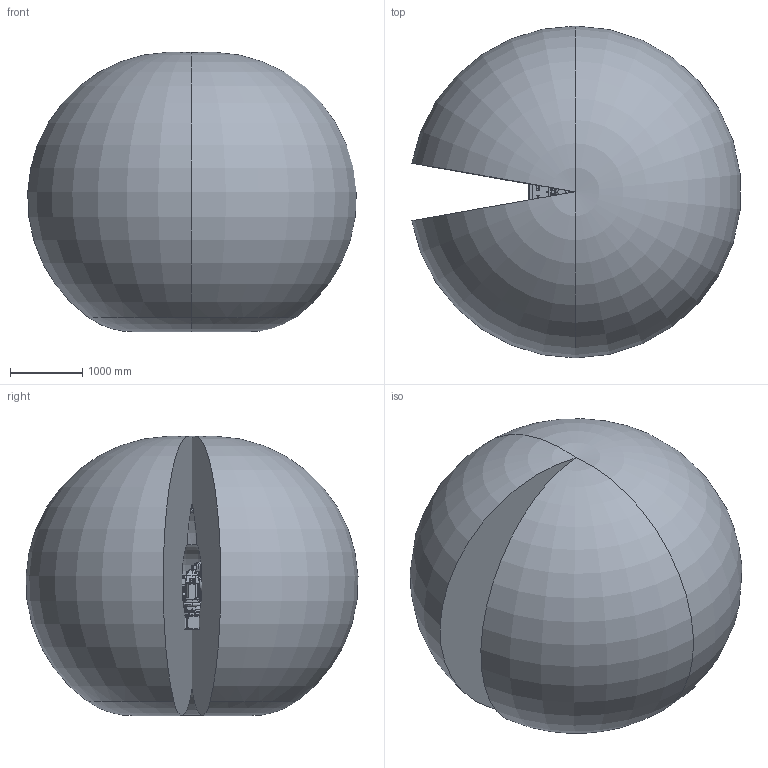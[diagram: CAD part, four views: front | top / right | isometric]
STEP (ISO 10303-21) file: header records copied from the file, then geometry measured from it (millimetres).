
FILE_DESCRIPTION (( 'STEP AP214' ), '1' );
FILE_NAME ('IRB5710_110kg-230_OC_02_ASM.step', '2025-07-09T15:50:13', ( '' ), ( '' ), 'SwSTEP 2.0', 'SolidWorks 2024', '' );
FILE_SCHEMA (( 'AUTOMOTIVE_DESIGN' ));
Length unit declared in the file: millimetre
Products named in the file (12): IRB5710_110kg-230_OmniCore_rev00_LINK01m_CABLE; IRB5710_110kg-230_OmniCore_rev00_LINK05_CAD; IRB5710_110kg-230_OC_02_ASM; IRB5710_110kg-230_OmniCore_rev00_LINK02_CAD; IRB5710_110kg-230_OmniCore_rev01_LINK03_CAD; IRB5710_110kg-230_OmniCore_rev00_LINK01_CAD; IRB5710_110kg-230_OmniCore_rev00_LINK04_CAD; IRB5710_110kg-230_OmniCore_rev00_LINK02m_CABLE; IRB5710_110kg-230_OmniCore_rev00_LINK06_CAD; IRB5710_110kg-230_OC_01_BASE_CAD; IRB5710_110kg-230_OmniCore_rev00_LINK03m_CABLE; IRB5710_110kg-230_OmniCore_rev00_Working-space
Assembly tree (11 placements, depth 2):
  IRB5710_110kg-230_OC_02_ASM
    IRB5710_110kg-230_OC_01_BASE_CAD
    IRB5710_110kg-230_OmniCore_rev00_LINK01_CAD
    IRB5710_110kg-230_OmniCore_rev00_LINK02_CAD
    IRB5710_110kg-230_OmniCore_rev01_LINK03_CAD
    IRB5710_110kg-230_OmniCore_rev00_LINK04_CAD
    IRB5710_110kg-230_OmniCore_rev00_LINK05_CAD
    IRB5710_110kg-230_OmniCore_rev00_LINK06_CAD
    IRB5710_110kg-230_OmniCore_rev00_LINK01m_CABLE
    IRB5710_110kg-230_OmniCore_rev00_LINK02m_CABLE
    IRB5710_110kg-230_OmniCore_rev00_LINK03m_CABLE
    IRB5710_110kg-230_OmniCore_rev00_Working-space
Bounding box: 4548.84 x 4596.35 x 3866.47 mm (x, y, z)
Volume: 42264094973.2 mm3; surface area: 88178330.5 mm2
Topology: 16 solids, 55 shells, 6278 faces, 15836 edges, 10210 vertices
Faces by surface type: plane 3071, cylinder 1797, cone 783, bspline 444, torus 167, sphere 16
Entity records: 283170 total; most frequent: CARTESIAN_POINT 117911, ORIENTED_EDGE 31392, DIRECTION 29214, EDGE_CURVE 15696, AXIS2_PLACEMENT_3D 10590, VERTEX_POINT 10209, LINE 8034, VECTOR 8034
